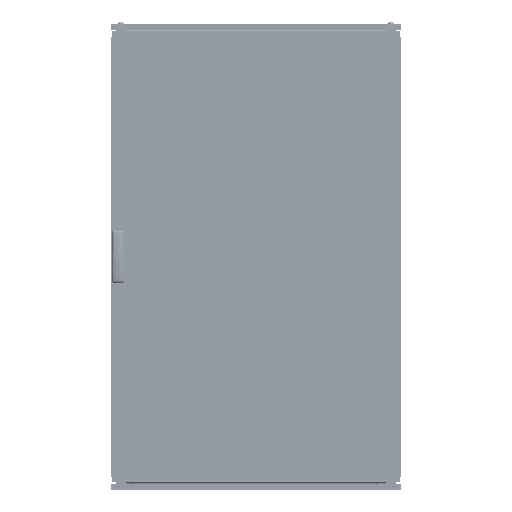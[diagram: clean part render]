
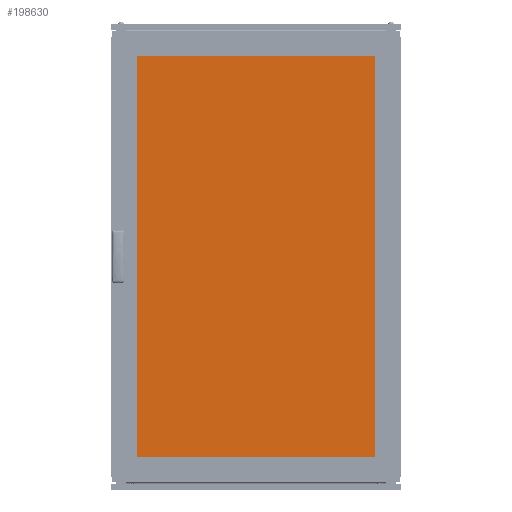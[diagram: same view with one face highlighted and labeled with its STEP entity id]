
A CAD part, top view. The second image highlights one B-rep face of the part: STEP entity #198630.
In plain terms, the highlighted planar face has unit normal (0, 0, 1).
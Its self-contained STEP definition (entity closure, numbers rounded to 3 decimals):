
#3245 = CARTESIAN_POINT ( 'NONE',  ( -430., -710., 5. ) ) ;
#19540 = PLANE ( 'NONE',  #197328 ) ;
#33746 = EDGE_CURVE ( 'NONE', #147392, #113194, #126372, .T. ) ;
#41909 = EDGE_LOOP ( 'NONE', ( #88563, #118892, #155600, #148963 ) ) ;
#46602 = VECTOR ( 'NONE', #52698, 1000. ) ;
#52698 = DIRECTION ( 'NONE',  ( 1., 0., 0. ) ) ;
#57285 = EDGE_CURVE ( 'NONE', #113194, #183457, #98451, .T. ) ;
#61157 = CARTESIAN_POINT ( 'NONE',  ( -430., 710., 5. ) ) ;
#63305 = CARTESIAN_POINT ( 'NONE',  ( -430., 710., 5. ) ) ;
#64406 = DIRECTION ( 'NONE',  ( -1., 0., 0. ) ) ;
#80082 = DIRECTION ( 'NONE',  ( 0., -1., 0. ) ) ;
#80482 = VERTEX_POINT ( 'NONE', #93838 ) ;
#85418 = FACE_OUTER_BOUND ( 'NONE', #41909, .T. ) ;
#86490 = CARTESIAN_POINT ( 'NONE',  ( 0., 0., 5. ) ) ;
#88563 = ORIENTED_EDGE ( 'NONE', *, *, #33746, .T. ) ;
#90447 = CARTESIAN_POINT ( 'NONE',  ( 430., 710., 5. ) ) ;
#93838 = CARTESIAN_POINT ( 'NONE',  ( -430., -710., 5. ) ) ;
#98451 = LINE ( 'NONE', #63305, #121481 ) ;
#100465 = VECTOR ( 'NONE', #80082, 1000. ) ;
#106572 = DIRECTION ( 'NONE',  ( 0., 1., 0. ) ) ;
#107642 = CARTESIAN_POINT ( 'NONE',  ( 430., -710., 5. ) ) ;
#113105 = LINE ( 'NONE', #130738, #100465 ) ;
#113194 = VERTEX_POINT ( 'NONE', #90447 ) ;
#118892 = ORIENTED_EDGE ( 'NONE', *, *, #57285, .T. ) ;
#121481 = VECTOR ( 'NONE', #64406, 1000. ) ;
#126372 = LINE ( 'NONE', #107642, #199681 ) ;
#130738 = CARTESIAN_POINT ( 'NONE',  ( -430., -710., 5. ) ) ;
#137182 = DIRECTION ( 'NONE',  ( -1., 0., 0. ) ) ;
#143382 = EDGE_CURVE ( 'NONE', #183457, #80482, #113105, .T. ) ;
#147392 = VERTEX_POINT ( 'NONE', #202245 ) ;
#148963 = ORIENTED_EDGE ( 'NONE', *, *, #189013, .T. ) ;
#155600 = ORIENTED_EDGE ( 'NONE', *, *, #143382, .T. ) ;
#183457 = VERTEX_POINT ( 'NONE', #61157 ) ;
#189013 = EDGE_CURVE ( 'NONE', #80482, #147392, #206718, .T. ) ;
#197328 = AXIS2_PLACEMENT_3D ( 'NONE', #86490, #217584, #137182 ) ;
#198630 = ADVANCED_FACE ( 'NONE', ( #85418 ), #19540, .F. ) ;
#199681 = VECTOR ( 'NONE', #106572, 1000. ) ;
#202245 = CARTESIAN_POINT ( 'NONE',  ( 430., -710., 5. ) ) ;
#206718 = LINE ( 'NONE', #3245, #46602 ) ;
#217584 = DIRECTION ( 'NONE',  ( 0., 0., -1. ) ) ;
